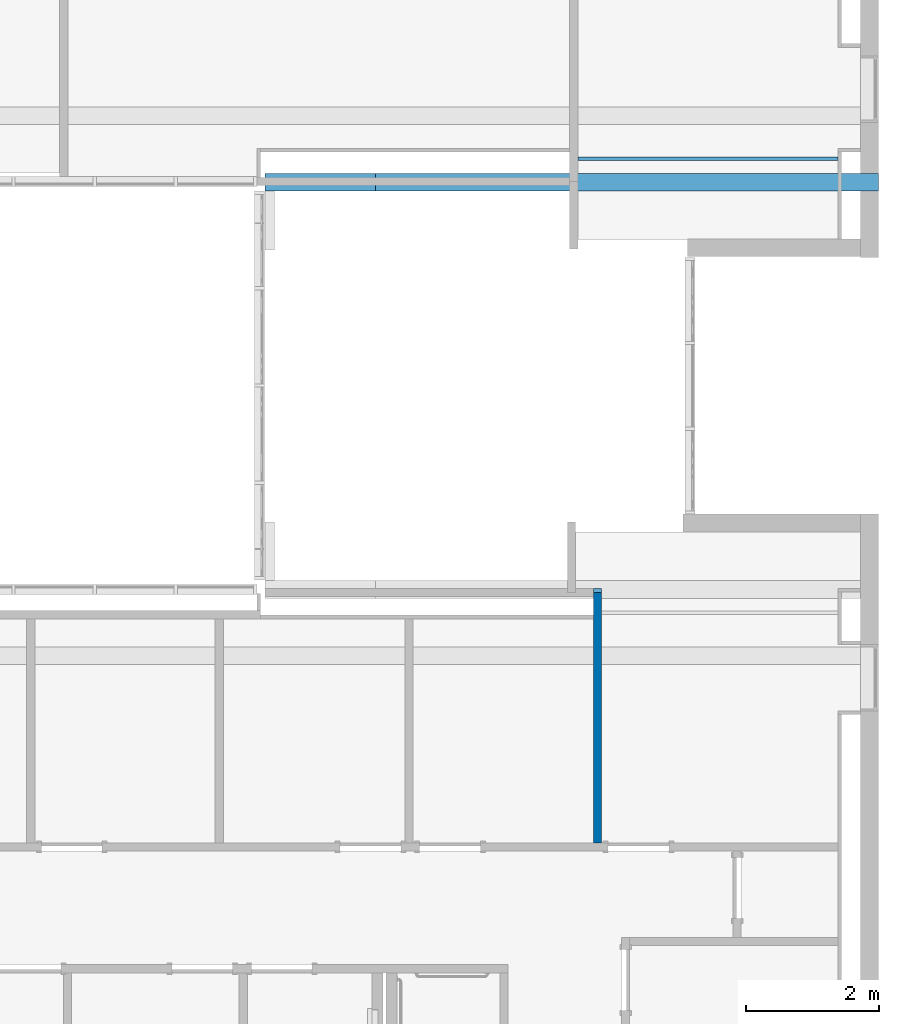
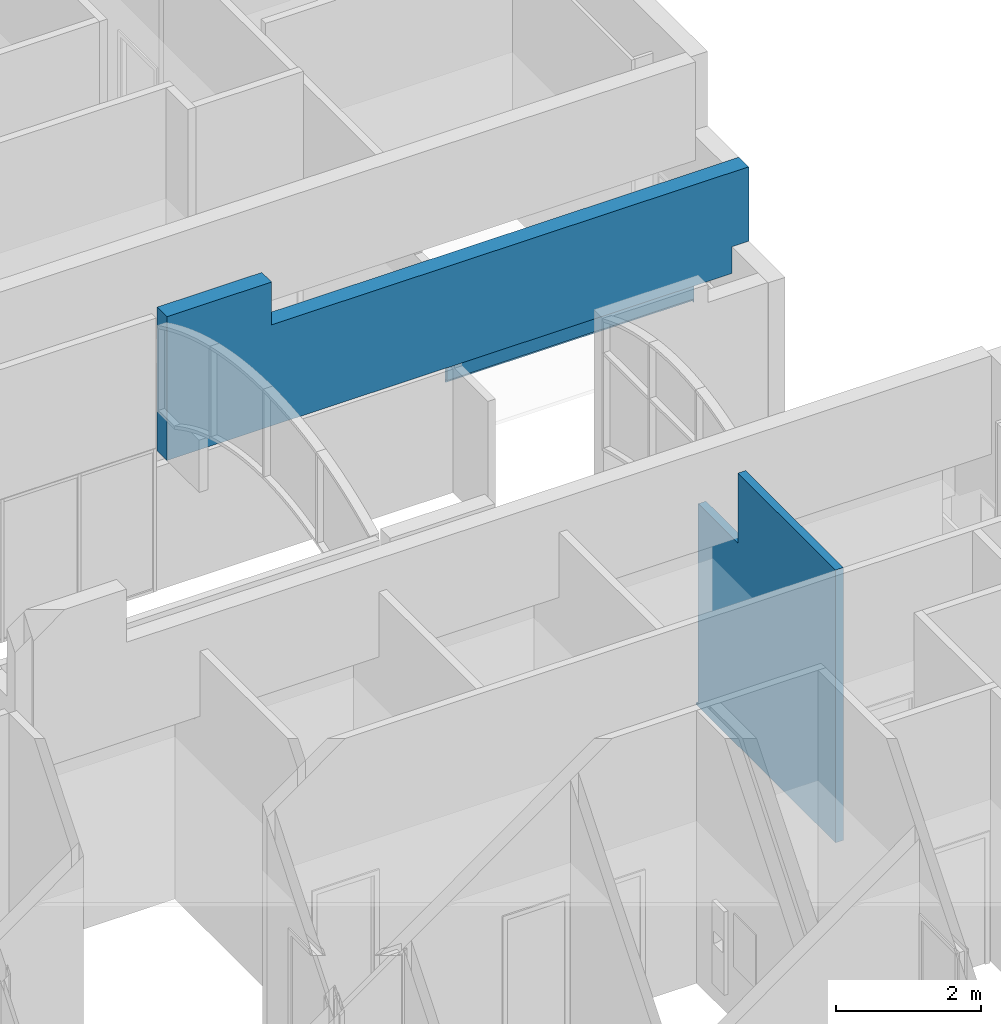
# One storey, part 25 of 47: 3 walls.
"""IFC2X3 building model written with IfcOpenShell, lengths in metres."""

from ifc_helpers import new_model, entity, si_unit, converted_unit, frame, origin, place, context, project, spatial, face_set, surface_model, material, layer, layer_set, layer_usage, element, save


model = new_model("IFC2X3")

# Units and contexts
model_context = context("Model", 3, precision=1e-09, world=origin())
plan_context = context("Plan", 3, precision=1e-09, world=origin())
ifc_project = project(units=[si_unit("LENGTHUNIT", "METRE"), si_unit("AREAUNIT", "SQUARE_METRE"), si_unit("VOLUMEUNIT", "CUBIC_METRE"), converted_unit("PLANEANGLEUNIT", "DEGREE", entity("IfcRatioMeasure", 0.01745329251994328), si_unit("PLANEANGLEUNIT", "RADIAN"), dimensions=[0, 0, 0, 0, 0, 0, 0]), si_unit("TIMEUNIT", "SECOND")], contexts=[model_context, plan_context])

# Site, building, storey
site_placement = place(None, origin())
site = spatial("IfcSite", under=ifc_project, at=site_placement, Name="Default", CompositionType="ELEMENT")
building_placement = place(site_placement, origin())
building = spatial("IfcBuilding", under=site, at=building_placement, CompositionType="ELEMENT")
storey_placement = place(building_placement, frame((0.0, 0.0, 4.570000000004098)))
storey = spatial("IfcBuildingStorey", under=building, at=storey_placement, Name="Second Floor", CompositionType="ELEMENT", Elevation=4.570000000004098)

# Walls
ifc_material_1 = material(Name="Plasterboard")
ifc_layer_1 = layer(ifc_material_1, 0.016)
ifc_material_2 = material(Name="Metal - Stud Layer")
ifc_layer_2 = layer(ifc_material_2, 0.092)
ifc_layer_3 = layer(ifc_material_1, 0.016)
ifc_layer_set_1 = layer_set([ifc_layer_1, ifc_layer_2, ifc_layer_3], Name="Basic Wall:Interior - Partition (92mm Stud)")
ifc_layer_usage_1 = layer_usage(ifc_layer_set_1, "AXIS2", "NEGATIVE", 0.062)
wall_1_placement = place(storey_placement, frame((-3.851975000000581, 28.64443871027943, 0.0), z_axis=(0.0, 0.0, 1.0), x_axis=(0.0, -1.0, 0.0)))
element("IfcWall", 1, at=wall_1_placement, inside=storey, material=ifc_layer_usage_1, Name="Basic Wall:Interior - Partition (92mm Stud)", ObjectType="Basic Wall:Interior - Partition (92mm Stud)", context=model_context, shape_type="SurfaceModel", body=[
    surface_model("IfcFaceBasedSurfaceModel", [(0.0, -0.06199999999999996, 0.0), (0.1240000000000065, -0.06199999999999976, 0.0), (0.406000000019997, -0.06199999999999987, 0.0), (0.4600000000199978, -0.06199999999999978, 0.0), (3.836000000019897, -0.06199999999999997, 0.0), (3.836000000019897, -0.06199999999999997, 4.577999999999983), (1.151342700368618, -0.0619999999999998, 4.577999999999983), (1.151342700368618, -0.0619999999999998, 3.404499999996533), (0.06200000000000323, -0.06199999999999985, 3.404499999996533), (0.06200000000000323, -0.06199999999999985, 2.071499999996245), (0.06200000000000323, -0.06199999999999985, 0.02843658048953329), (0.0, -0.06199999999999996, 0.02843658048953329), (0.0, 0.06200000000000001, 0.0), (3.836000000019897, 0.062, 0.0), (3.836000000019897, 0.062, 4.577999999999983), (1.151342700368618, 0.06200000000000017, 4.577999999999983), (1.151342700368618, 0.06200000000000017, 3.404499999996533), (0.06200000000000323, 0.06200000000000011, 3.404499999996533), (0.06200000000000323, 0.06200000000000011, 0.02843658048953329), (0.0, 0.06200000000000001, 0.02843658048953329)], [face_set([[[0, 1, 2, 3, 4, 5, 6, 7, 8, 9, 10, 11]], [[12, 13, 14, 15, 16, 17, 18, 19]], [[5, 4, 13, 14]], [[4, 3, 2, 1, 0, 12, 13]], [[6, 15, 14, 5]], [[8, 17, 16, 7]], [[10, 11, 19, 18]], [[0, 12, 19, 11]], [[8, 9, 10, 18, 17]], [[7, 16, 15, 6]]])]),
])
ifc_material_3 = material(Name="Insulation - Insulated Panel")
ifc_layer_4 = layer(ifc_material_3, 0.042)
ifc_material_4 = material(Name="Metal - Firring")
ifc_layer_5 = layer(ifc_material_4, 0.038)
ifc_material_5 = material(Name="Wood - Sheathing - plywood")
ifc_layer_6 = layer(ifc_material_5, 0.019)
ifc_layer_7 = layer(ifc_material_2, 0.152)
ifc_layer_8 = layer(ifc_material_1, 0.016)
ifc_layer_set_2 = layer_set([ifc_layer_4, ifc_layer_5, ifc_layer_6, ifc_layer_7, ifc_layer_8], Name="Basic Wall:Exterior - Insul Panel on Mtl. Stud")
ifc_layer_usage_2 = layer_usage(ifc_layer_set_2, "AXIS2", "NEGATIVE", 0.1335)
wall_2_placement = place(storey_placement, frame((0.3799999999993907, 34.76349999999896, 2.191499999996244), z_axis=(0.0, 0.0, 1.0), x_axis=(-1.0, 0.0, 0.0)))
element("IfcWall", 2, at=wall_2_placement, inside=storey, material=ifc_layer_usage_2, Name="Basic Wall:Exterior - Insul Panel on Mtl. Stud", ObjectType="Basic Wall:Exterior - Insul Panel on Mtl. Stud", context=model_context, shape_type="SurfaceModel", body=[
    surface_model("IfcFaceBasedSurfaceModel", [(0.2670000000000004, -0.1335, 0.0), (9.237726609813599, -0.1335, 0.0), (9.237726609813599, -0.1335, 2.414974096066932), (7.576241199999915, -0.1335, 2.414977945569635), (7.576241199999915, -0.1335, 1.697000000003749), (0.2669999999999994, -0.1335, 1.697000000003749), (0.0, -0.1335, 1.697000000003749), (0.0, -0.1335, 0.4485000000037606), (0.2670000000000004, -0.1335, 0.4485000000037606), (0.2669999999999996, 0.1335, 0.0), (0.2670000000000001, 0.1335, 0.4485000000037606), (0.0, 0.1335, 0.4485000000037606), (0.0, 0.1335, 1.697000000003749), (7.576241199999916, 0.1335, 1.697000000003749), (7.576241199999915, 0.1335, 2.414977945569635), (9.237726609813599, 0.1335, 2.414974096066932), (9.237726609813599, 0.1335, 0.0)], [face_set([[[0, 1, 2, 3, 4, 5, 6, 7, 8]], [[9, 10, 11, 12, 13, 14, 15, 16]], [[0, 9, 10, 8]], [[7, 11, 12, 6]], [[1, 0, 9, 16]], [[2, 1, 16, 15]], [[6, 12, 13, 4, 5]], [[7, 11, 10, 8]], [[3, 14, 15, 2]], [[4, 13, 14, 3]]])]),
])
ifc_layer_9 = layer(ifc_material_2, 0.038)
ifc_layer_10 = layer(ifc_material_1, 0.016)
ifc_layer_set_3 = layer_set([ifc_layer_9, ifc_layer_10], Name="Basic Wall:Interior - Furring (38 mm Stud)")
ifc_layer_usage_3 = layer_usage(ifc_layer_set_3, "AXIS2", "POSITIVE", -0.027)
wall_3_placement = place(storey_placement, frame((-4.146000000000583, 35.11349999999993, 1.55)))
element("IfcWall", 3, at=wall_3_placement, inside=storey, material=ifc_layer_usage_3, Name="Basic Wall:Interior - Furring (38 mm Stud)", ObjectType="Basic Wall:Interior - Furring (38 mm Stud)", context=model_context, shape_type="SurfaceModel", body=[
    surface_model("IfcFaceBasedSurfaceModel", [(3.916000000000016, -0.02700000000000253, 1.816499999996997), (0.0, -0.02700000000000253, 1.816499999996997), (0.0, -0.02700000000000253, 0.05700000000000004), (3.91499999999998, -0.02700000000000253, 0.05700000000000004), (3.91499999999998, -0.02700000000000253, 0.0), (3.916000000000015, -0.02700000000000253, 0.0), (3.916000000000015, 0.02699999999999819, 0.0), (3.916000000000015, 0.02699999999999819, 1.816499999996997), (0.0, 0.02699999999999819, 1.816499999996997), (0.0, 0.02699999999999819, 0.0), (3.91499999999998, 0.01500000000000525, 0.0), (0.0, 0.01499999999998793, 0.0), (0.0, 0.01499999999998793, 0.05700000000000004), (3.91499999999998, 0.01500000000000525, 0.05700000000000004)], [face_set([[[0, 1, 2, 3, 4, 5]], [[6, 7, 8, 9]], [[9, 6, 5, 4, 10, 11]], [[1, 8, 7, 0]], [[12, 13, 3, 2]], [[13, 12, 11, 10]], [[13, 3, 4, 10]], [[0, 5, 6, 7]], [[1, 2, 12, 11, 9, 8]]])]),
])

save(model, "model.ifc")
